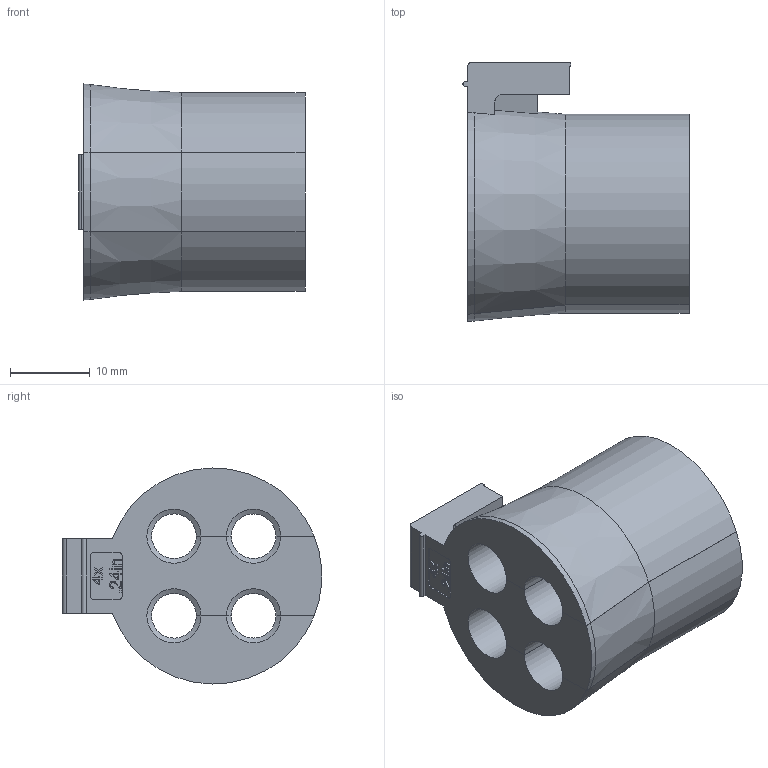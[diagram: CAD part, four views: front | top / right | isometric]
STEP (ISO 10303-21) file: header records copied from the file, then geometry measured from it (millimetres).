
FILE_DESCRIPTION(/* description */ (''),/* implementation_level */ '2;1');
FILE_NAME(/* name */ 'H:\SapWorkDir\Inventor\MP1\ConvertTempPath\87_12_121339_00_A_220525_KDT-X 4x6.stp',/* time_stamp */ '2022-05-25T13:39:31+02:00',/* author */ ('BAUER'),/* organization */ (''),/* preprocessor_version */ 'ST-DEVELOPER v16.13',/* originating_system */ 'Autodesk Inventor 2018',/* authorisation */ '');
FILE_SCHEMA (('AUTOMOTIVE_DESIGN { 1 0 10303 214 3 1 1 }'));
Length unit declared in the file: millimetre
Products named in the file (1): 121339
Bounding box: 28.4 x 32.53 x 27.14 mm (x, y, z)
Volume: 10762.7 mm3; surface area: 6538.6 mm2
Topology: 1 solids, 1 shells, 167 faces, 464 edges, 310 vertices
Faces by surface type: plane 105, cylinder 29, cone 17, bspline 16
Entity records: 5422 total; most frequent: CARTESIAN_POINT 1154, ORIENTED_EDGE 928, DIRECTION 797, EDGE_CURVE 464, LINE 359, VECTOR 359, VERTEX_POINT 310, AXIS2_PLACEMENT_3D 219
